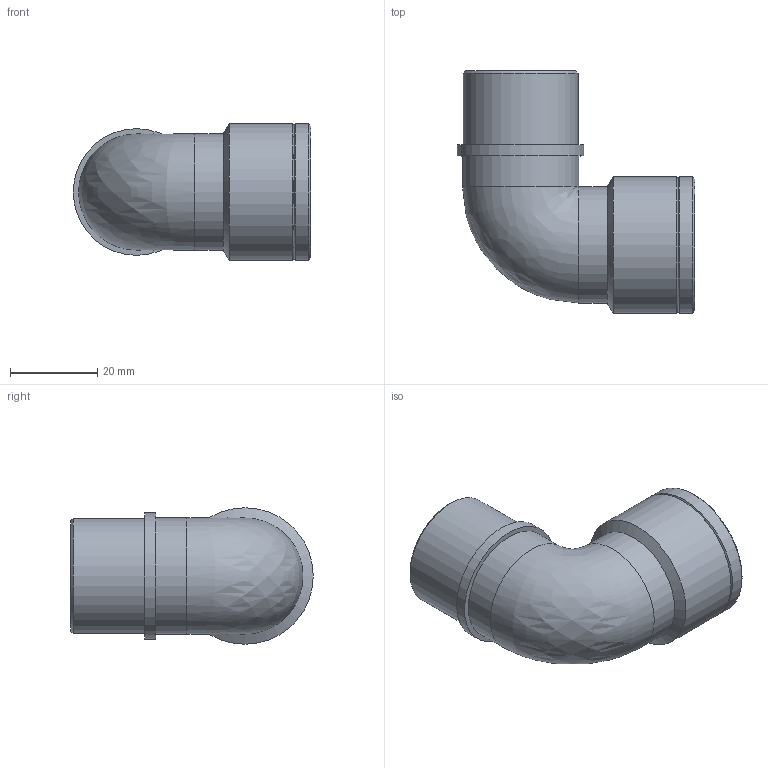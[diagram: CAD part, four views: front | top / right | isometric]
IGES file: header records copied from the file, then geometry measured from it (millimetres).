
Global section: file name: 051507007_0515070070A.ipt; native system: Autodesk Inventor 2015; preprocessor: unknown; author: KIM; date: 20180617.111940; units: millimetre
Bounding box: 54.54 x 55.68 x 31.35 mm (x, y, z)
Volume: 20407.9 mm3; surface area: 12385.1 mm2
Topology: 1 solids, 1 shells, 21 faces, 45 edges, 26 vertices
Faces by surface type: cylinder 6, revolution 5, cone 5, plane 4, bspline 1
Full cylindrical faces by diameter (mm): 26.441 x1, 26.649 x2, 29.085 x1, 31.352 x2
